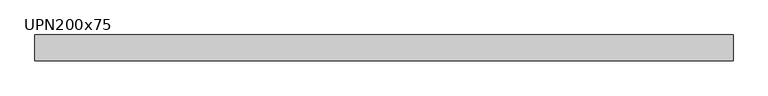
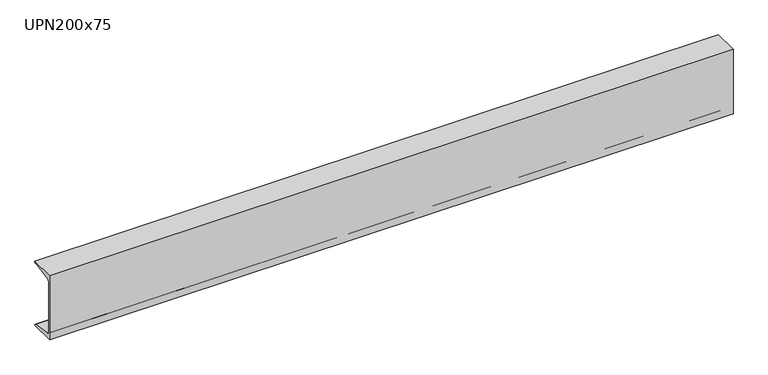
"""IFC4 building model written with IfcOpenShell, lengths in millimetres: beam geometry, M_MC Shapes : UPN200x75."""

from ifc_helpers import new_model, si_unit, point, frame, frame_2d, origin, place, context, project, spatial, polyline, circle_curve, trimmed, segment, composite_curve, outline, extrude, source, transform, mapped, element, save


def upn200x75_1c3169bc(model_context):
    return source(origin(), model_context, "Body", "SweptSolid", [
        extrude(outline(composite_curve([segment(polyline([(-10.9, 100.0), (64.1, 100.0), (64.1, 99.0253247)]), True, "CONTINUOUS"), segment(trimmed(circle_curve(frame_2d((60.15, 99.0253247)), 3.95), [point((64.1, 99.0253247))], [point((60.7993773, 95.1290689))], False, "CARTESIAN"), True, "CONTINUOUS"), segment(polyline([(60.7993773, 95.1290689), (0.2512455, 85.0376935)]), True, "CONTINUOUS"), segment(trimmed(circle_curve(frame_2d((1.55, 77.2451819)), 7.9), [point((0.2512455, 85.0376935))], [point((-6.35, 77.2451819))], True, "CARTESIAN"), True, "CONTINUOUS"), segment(polyline([(-6.35, 77.2451819), (-6.35, -77.2451819)]), True, "CONTINUOUS"), segment(trimmed(circle_curve(frame_2d((1.55, -77.2451819)), 7.9), [point((-6.35, -77.2451819))], [point((0.2512455, -85.0376935))], True, "CARTESIAN"), True, "CONTINUOUS"), segment(polyline([(0.2512455, -85.0376935), (60.7993773, -95.1290689)]), True, "CONTINUOUS"), segment(trimmed(circle_curve(frame_2d((60.15, -99.0253247)), 3.95), [point((60.7993773, -95.1290689))], [point((64.1, -99.0253247))], False, "CARTESIAN"), True, "CONTINUOUS"), segment(polyline([(64.1, -99.0253247), (64.1, -100.0), (-10.9, -100.0), (-10.9, 100.0)]), True, "CONTINUOUS")], self_intersect=False)), frame((-1009.0, 0.0, 0.0), z_axis=(1.0, 0.0, 0.0), x_axis=(0.0, 1.0, 0.0)), (0.0, 0.0, 1.0), 2018.0),
    ])


if __name__ == "__main__":
    model = new_model("IFC4")
    model_context = context("Model", 3, world=origin())
    ifc_project = project(units=[si_unit("LENGTHUNIT", "METRE", prefix="MILLI")], contexts=[model_context])
    site = spatial("IfcSite", under=ifc_project)
    building = spatial("IfcBuilding", under=site)
    placement = place(None, origin())
    upn200x75_shape = upn200x75_1c3169bc(model_context)
    element("IfcBeam", 1, ObjectType="M_MC Shapes : UPN200x75", at=placement, inside=building, context=model_context, shape_type="MappedRepresentation", body=[
        mapped(upn200x75_shape, transform((0.0, 0.0, 0.0), x_axis=(1.0, 0.0, 0.0), y_axis=(0.0, 1.0, 0.0), z_axis=(0.0, 0.0, 1.0))),
    ])
    save(model, "model.ifc")
